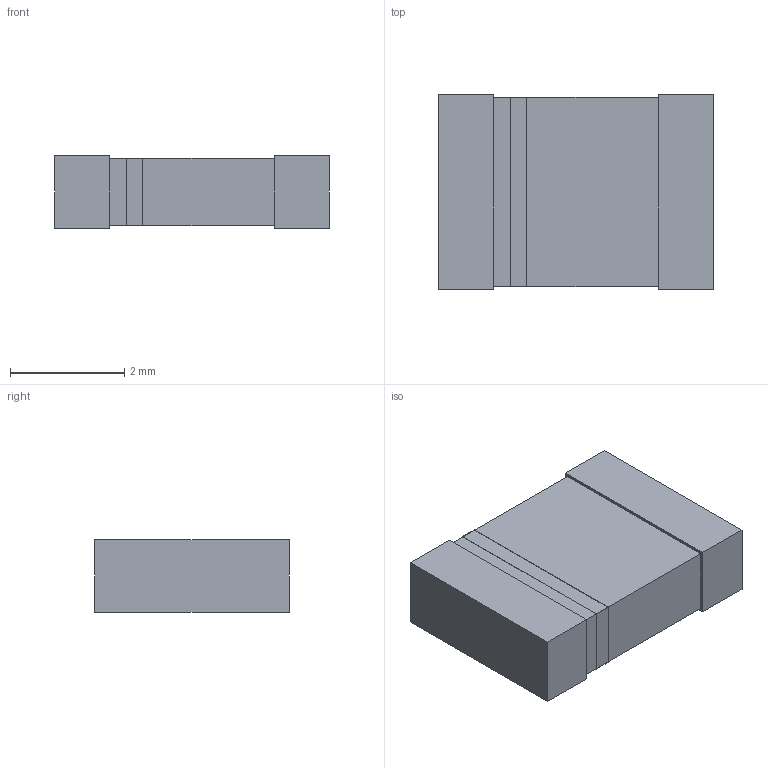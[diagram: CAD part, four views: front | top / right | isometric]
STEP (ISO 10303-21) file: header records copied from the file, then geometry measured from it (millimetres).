
FILE_DESCRIPTION(('STEP AP214'),'1');
FILE_NAME('CAP_1812M_AVX','2021-08-30T00:07:18',(''),(''),'','','');
FILE_SCHEMA(('AUTOMOTIVE_DESIGN'));
Length unit declared in the file: millimetre
Products named in the file (1): product
Bounding box: 4.8 x 3.4 x 1.27 mm (x, y, z)
Volume: 19.5 mm3; surface area: 74 mm2
Topology: 4 solids, 4 shells, 30 faces, 64 edges, 40 vertices
Faces by surface type: plane 30
Entity records: 790 total; most frequent: ORIENTED_EDGE 128, DIRECTION 126, CARTESIAN_POINT 71, EDGE_CURVE 64, LINE 64, VECTOR 64, VERTEX_POINT 40, AXIS2_PLACEMENT_3D 31
